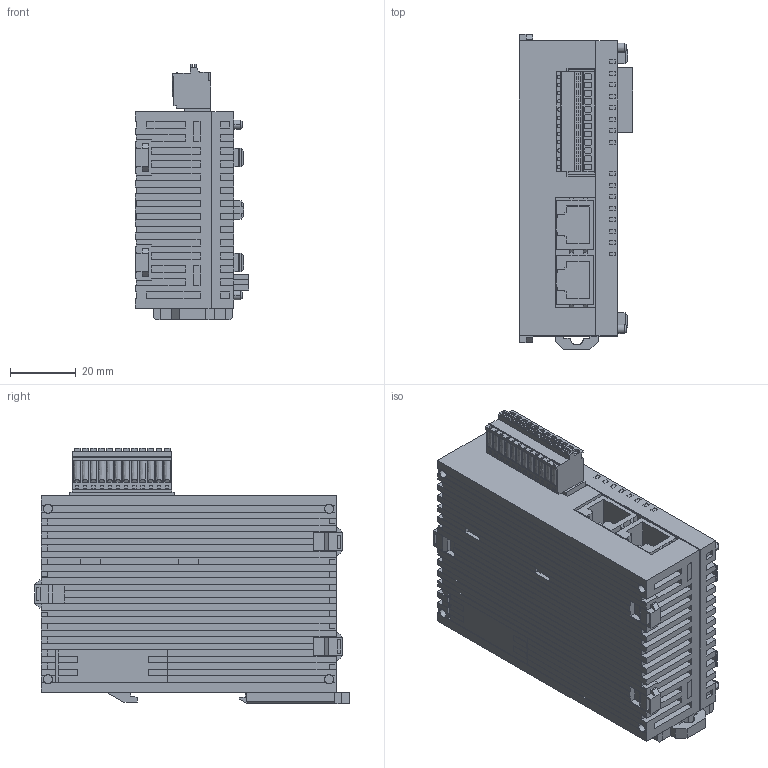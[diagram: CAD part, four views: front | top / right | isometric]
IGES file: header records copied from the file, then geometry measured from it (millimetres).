
Global section: preprocessor: SolidWorks 2008; organization: PanasonicElectricWorks; date: 090825.145546; units: millimetre
Bounding box: 34.5 x 96.1 x 78 mm (x, y, z)
Surface area: 32471.2 mm2 (no closed solid volume)
Topology: 0 solids, 0 shells, 1308 faces, 8400 edges, 8400 vertices
Faces by surface type: bspline 1206, revolution 102
